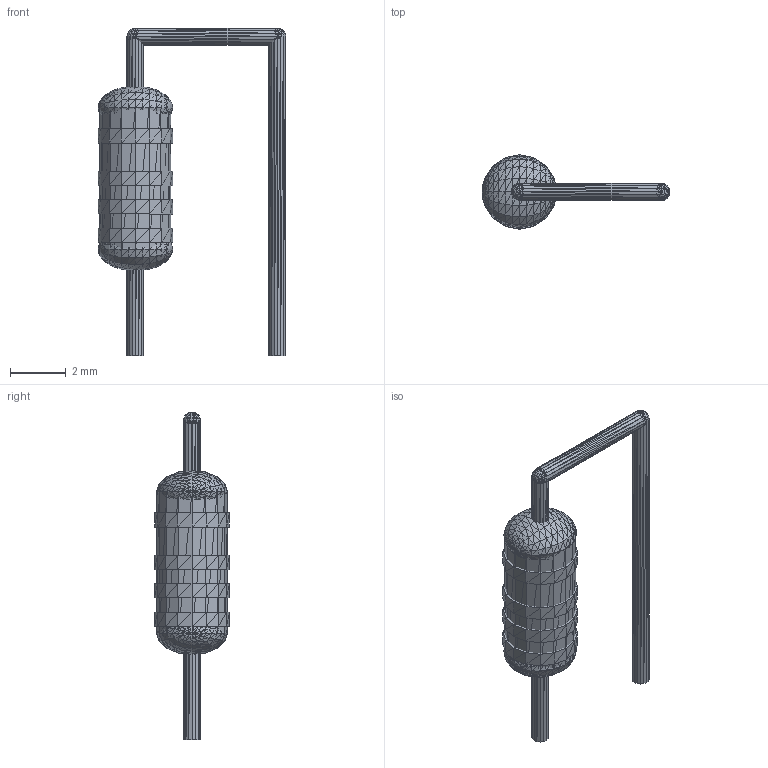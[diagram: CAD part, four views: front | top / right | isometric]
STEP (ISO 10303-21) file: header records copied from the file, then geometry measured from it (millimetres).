
FILE_DESCRIPTION(('HOOPS Exchange Step'),'2;1');
FILE_NAME('***.stp');
FILE_SCHEMA( ('AP242_MANAGED_MODEL_BASED_3D_ENGINEERING_MIM_LF {1 0 10303 442 1 1 4 }') );
Length unit declared in the file: inch
Products named in the file (19): RV_1-4W_220_2; RV_1-4W_220_3; RV_1-4W_220_4; RV_1-4W_220_5; RV_1-4W_220_6; RV_1-4W_220_7; RV_1-4W_220_8; RV_1-4W_220_9; RV_1-4W_220_10; RV_1-4W_220_11; RV_1-4W_220_12; RV_1-4W_220_13; RV_1-4W_220_14; RV_1-4W_220_15; RV_1-4W_220_16; RV_1-4W_220_17; RV_1-4W_220_18; RV_1-4W_220_19; RV_1-4W_220
Assembly tree (18 placements, depth 2):
  RV_1-4W_220
    RV_1-4W_220_2
    RV_1-4W_220_3
    RV_1-4W_220_4
    RV_1-4W_220_5
    RV_1-4W_220_6
    RV_1-4W_220_7
    RV_1-4W_220_8
    RV_1-4W_220_9
    RV_1-4W_220_10
    RV_1-4W_220_11
    RV_1-4W_220_12
    RV_1-4W_220_13
    RV_1-4W_220_14
    RV_1-4W_220_15
    RV_1-4W_220_16
    RV_1-4W_220_17
    RV_1-4W_220_18
    RV_1-4W_220_19
Bounding box: 6.72 x 2.67 x 11.73 mm (x, y, z)
Volume: 48 mm3; surface area: 198.8 mm2
Topology: 8 solids, 18 shells, 2432 faces, 3716 edges, 1310 vertices
Faces by surface type: plane 2432
Entity records: 48778 total; most frequent: DIRECTION 8656, CARTESIAN_POINT 7496, ORIENTED_EDGE 7296, VECTOR 3716, LINE 3716, EDGE_CURVE 3716, AXIS2_PLACEMENT_3D 2470, PLANE 2432
